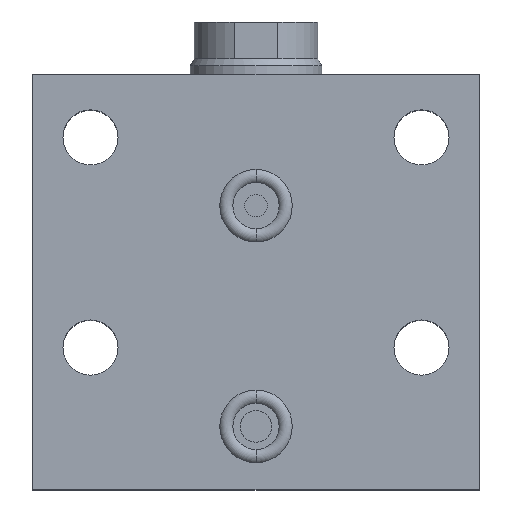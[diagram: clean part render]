
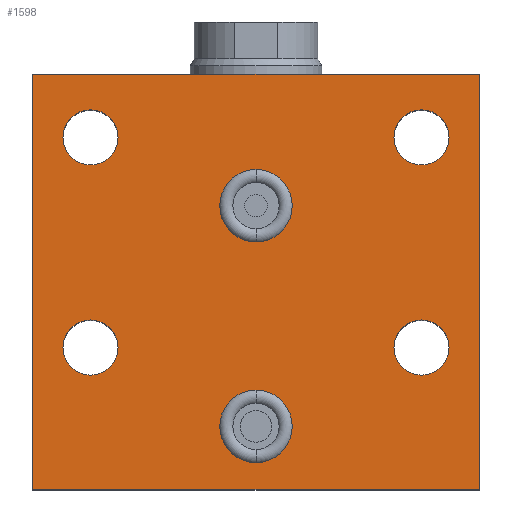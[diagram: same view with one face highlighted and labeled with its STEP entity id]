
A CAD part, top view. The second image highlights one B-rep face of the part: STEP entity #1598.
In plain terms, the highlighted planar face has unit normal (0, 0, 1).
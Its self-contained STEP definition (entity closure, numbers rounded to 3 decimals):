
#46 = CARTESIAN_POINT ( 'NONE',  ( 0., 12., 31.5 ) ) ;
#99 = ORIENTED_EDGE ( 'NONE', *, *, #1200, .F. ) ;
#105 = ORIENTED_EDGE ( 'NONE', *, *, #1294, .T. ) ;
#154 = AXIS2_PLACEMENT_3D ( 'NONE', #1694, #511, #1899 ) ;
#176 = DIRECTION ( 'NONE',  ( -1., 0., 0. ) ) ;
#179 = CIRCLE ( 'NONE', #1875, 6.9 ) ;
#199 = VERTEX_POINT ( 'NONE', #2390 ) ;
#204 = LINE ( 'NONE', #2157, #2244 ) ;
#224 = CARTESIAN_POINT ( 'NONE',  ( 31.5, 67., 31.5 ) ) ;
#239 = VECTOR ( 'NONE', #1726, 1000. ) ;
#242 = CARTESIAN_POINT ( 'NONE',  ( -26.25, 27., 31.5 ) ) ;
#268 = AXIS2_PLACEMENT_3D ( 'NONE', #46, #1379, #2313 ) ;
#286 = ORIENTED_EDGE ( 'NONE', *, *, #1928, .F. ) ;
#331 = CARTESIAN_POINT ( 'NONE',  ( 26.25, 67., 31.5 ) ) ;
#349 = CARTESIAN_POINT ( 'NONE',  ( -42.5, 0., 31.5 ) ) ;
#374 = EDGE_CURVE ( 'NONE', #1071, #2312, #428, .T. ) ;
#381 = DIRECTION ( 'NONE',  ( -1., 0., 0. ) ) ;
#392 = LINE ( 'NONE', #985, #1275 ) ;
#398 = DIRECTION ( 'NONE',  ( 0., 0., 1. ) ) ;
#401 = AXIS2_PLACEMENT_3D ( 'NONE', #1711, #1910, #381 ) ;
#404 = EDGE_LOOP ( 'NONE', ( #2141, #884, #99, #2016 ) ) ;
#417 = DIRECTION ( 'NONE',  ( 1., 0., 0. ) ) ;
#428 = CIRCLE ( 'NONE', #1418, 5.25 ) ;
#448 = AXIS2_PLACEMENT_3D ( 'NONE', #224, #1609, #417 ) ;
#450 = CIRCLE ( 'NONE', #2076, 5.25 ) ;
#465 = ORIENTED_EDGE ( 'NONE', *, *, #2058, .F. ) ;
#511 = DIRECTION ( 'NONE',  ( 0., 0., 1. ) ) ;
#545 = EDGE_CURVE ( 'NONE', #711, #1646, #2228, .T. ) ;
#551 = VERTEX_POINT ( 'NONE', #2102 ) ;
#569 = CARTESIAN_POINT ( 'NONE',  ( -36.75, 27., 31.5 ) ) ;
#574 = FACE_OUTER_BOUND ( 'NONE', #404, .T. ) ;
#658 = ORIENTED_EDGE ( 'NONE', *, *, #374, .F. ) ;
#662 = VERTEX_POINT ( 'NONE', #2315 ) ;
#664 = EDGE_CURVE ( 'NONE', #2312, #1071, #877, .T. ) ;
#674 = DIRECTION ( 'NONE',  ( 0., 0., 1. ) ) ;
#694 = CARTESIAN_POINT ( 'NONE',  ( 0., 5.1, 31.5 ) ) ;
#702 = DIRECTION ( 'NONE',  ( 0., 0., 1. ) ) ;
#705 = CIRCLE ( 'NONE', #1238, 5.25 ) ;
#707 = FACE_BOUND ( 'NONE', #794, .T. ) ;
#711 = VERTEX_POINT ( 'NONE', #1545 ) ;
#716 = CARTESIAN_POINT ( 'NONE',  ( 26.25, 27., 31.5 ) ) ;
#741 = CIRCLE ( 'NONE', #268, 6.9 ) ;
#742 = EDGE_CURVE ( 'NONE', #1262, #551, #2368, .T. ) ;
#761 = EDGE_LOOP ( 'NONE', ( #286, #1792 ) ) ;
#790 = VERTEX_POINT ( 'NONE', #1535 ) ;
#792 = CARTESIAN_POINT ( 'NONE',  ( 31.5, 27., 31.5 ) ) ;
#794 = EDGE_LOOP ( 'NONE', ( #2311, #1134 ) ) ;
#814 = EDGE_LOOP ( 'NONE', ( #658, #2466 ) ) ;
#822 = EDGE_LOOP ( 'NONE', ( #890, #105 ) ) ;
#877 = CIRCLE ( 'NONE', #1366, 5.25 ) ;
#884 = ORIENTED_EDGE ( 'NONE', *, *, #2292, .F. ) ;
#890 = ORIENTED_EDGE ( 'NONE', *, *, #2115, .T. ) ;
#917 = CARTESIAN_POINT ( 'NONE',  ( -42.5, 0., 31.5 ) ) ;
#938 = VECTOR ( 'NONE', #1679, 1000. ) ;
#965 = CARTESIAN_POINT ( 'NONE',  ( -31.5, 27., 31.5 ) ) ;
#969 = ORIENTED_EDGE ( 'NONE', *, *, #1745, .F. ) ;
#985 = CARTESIAN_POINT ( 'NONE',  ( -42.5, 54., 31.5 ) ) ;
#986 = EDGE_LOOP ( 'NONE', ( #1319, #465 ) ) ;
#995 = DIRECTION ( 'NONE',  ( 1., 0., 0. ) ) ;
#1013 = VERTEX_POINT ( 'NONE', #2028 ) ;
#1063 = DIRECTION ( 'NONE',  ( 0., 0., 1. ) ) ;
#1071 = VERTEX_POINT ( 'NONE', #242 ) ;
#1127 = CARTESIAN_POINT ( 'NONE',  ( 0., 12., 31.5 ) ) ;
#1128 = FACE_BOUND ( 'NONE', #814, .T. ) ;
#1134 = ORIENTED_EDGE ( 'NONE', *, *, #1300, .T. ) ;
#1168 = DIRECTION ( 'NONE',  ( 1., 0., 0. ) ) ;
#1172 = DIRECTION ( 'NONE',  ( 0., 0., -1. ) ) ;
#1200 = EDGE_CURVE ( 'NONE', #1203, #199, #1467, .T. ) ;
#1203 = VERTEX_POINT ( 'NONE', #2443 ) ;
#1224 = EDGE_LOOP ( 'NONE', ( #969, #1527 ) ) ;
#1238 = AXIS2_PLACEMENT_3D ( 'NONE', #1882, #702, #2085 ) ;
#1255 = FACE_BOUND ( 'NONE', #822, .T. ) ;
#1262 = VERTEX_POINT ( 'NONE', #2099 ) ;
#1275 = VECTOR ( 'NONE', #2150, 1000. ) ;
#1294 = EDGE_CURVE ( 'NONE', #2052, #1013, #741, .T. ) ;
#1300 = EDGE_CURVE ( 'NONE', #551, #1262, #1844, .T. ) ;
#1305 = CARTESIAN_POINT ( 'NONE',  ( -42.5, 79., 31.5 ) ) ;
#1319 = ORIENTED_EDGE ( 'NONE', *, *, #545, .F. ) ;
#1330 = DIRECTION ( 'NONE',  ( -1., 0., 0. ) ) ;
#1350 = VERTEX_POINT ( 'NONE', #1473 ) ;
#1366 = AXIS2_PLACEMENT_3D ( 'NONE', #965, #2323, #1168 ) ;
#1379 = DIRECTION ( 'NONE',  ( 0., 0., -1. ) ) ;
#1381 = DIRECTION ( 'NONE',  ( 0., 0., -1. ) ) ;
#1418 = AXIS2_PLACEMENT_3D ( 'NONE', #1855, #674, #2054 ) ;
#1432 = AXIS2_PLACEMENT_3D ( 'NONE', #1550, #1172, #2495 ) ;
#1467 = LINE ( 'NONE', #1305, #938 ) ;
#1473 = CARTESIAN_POINT ( 'NONE',  ( 36.75, 27., 31.5 ) ) ;
#1478 = VERTEX_POINT ( 'NONE', #716 ) ;
#1527 = ORIENTED_EDGE ( 'NONE', *, *, #1689, .F. ) ;
#1532 = VERTEX_POINT ( 'NONE', #331 ) ;
#1535 = CARTESIAN_POINT ( 'NONE',  ( 36.75, 67., 31.5 ) ) ;
#1545 = CARTESIAN_POINT ( 'NONE',  ( -26.25, 67., 31.5 ) ) ;
#1550 = CARTESIAN_POINT ( 'NONE',  ( -42.5, 54., 31.5 ) ) ;
#1558 = CARTESIAN_POINT ( 'NONE',  ( -36.75, 67., 31.5 ) ) ;
#1571 = EDGE_CURVE ( 'NONE', #2107, #662, #1752, .T. ) ;
#1590 = CARTESIAN_POINT ( 'NONE',  ( 31.5, 27., 31.5 ) ) ;
#1598 = ADVANCED_FACE ( 'NONE', ( #1255, #707, #2223, #2164, #1635, #1128, #574 ), #2487, .F. ) ;
#1602 = CIRCLE ( 'NONE', #2024, 5.25 ) ;
#1609 = DIRECTION ( 'NONE',  ( 0., 0., 1. ) ) ;
#1615 = AXIS2_PLACEMENT_3D ( 'NONE', #2500, #1381, #176 ) ;
#1635 = FACE_BOUND ( 'NONE', #1224, .T. ) ;
#1646 = VERTEX_POINT ( 'NONE', #1558 ) ;
#1679 = DIRECTION ( 'NONE',  ( 1., 0., 0. ) ) ;
#1689 = EDGE_CURVE ( 'NONE', #1478, #1350, #450, .T. ) ;
#1694 = CARTESIAN_POINT ( 'NONE',  ( -31.5, 67., 31.5 ) ) ;
#1711 = CARTESIAN_POINT ( 'NONE',  ( 0., 54., 31.5 ) ) ;
#1726 = DIRECTION ( 'NONE',  ( 1., 0., 0. ) ) ;
#1745 = EDGE_CURVE ( 'NONE', #1350, #1478, #1842, .T. ) ;
#1752 = LINE ( 'NONE', #349, #239 ) ;
#1758 = DIRECTION ( 'NONE',  ( 0., -1., 0. ) ) ;
#1776 = DIRECTION ( 'NONE',  ( 1., 0., 0. ) ) ;
#1792 = ORIENTED_EDGE ( 'NONE', *, *, #2404, .F. ) ;
#1842 = CIRCLE ( 'NONE', #2446, 5.25 ) ;
#1844 = CIRCLE ( 'NONE', #401, 6.9 ) ;
#1855 = CARTESIAN_POINT ( 'NONE',  ( -31.5, 27., 31.5 ) ) ;
#1875 = AXIS2_PLACEMENT_3D ( 'NONE', #1127, #2457, #1330 ) ;
#1882 = CARTESIAN_POINT ( 'NONE',  ( -31.5, 67., 31.5 ) ) ;
#1899 = DIRECTION ( 'NONE',  ( 1., 0., 0. ) ) ;
#1910 = DIRECTION ( 'NONE',  ( 0., 0., -1. ) ) ;
#1928 = EDGE_CURVE ( 'NONE', #790, #1532, #1602, .T. ) ;
#2016 = ORIENTED_EDGE ( 'NONE', *, *, #2286, .T. ) ;
#2024 = AXIS2_PLACEMENT_3D ( 'NONE', #2235, #1063, #2407 ) ;
#2028 = CARTESIAN_POINT ( 'NONE',  ( 0., 18.9, 31.5 ) ) ;
#2052 = VERTEX_POINT ( 'NONE', #694 ) ;
#2054 = DIRECTION ( 'NONE',  ( 1., 0., 0. ) ) ;
#2058 = EDGE_CURVE ( 'NONE', #1646, #711, #705, .T. ) ;
#2076 = AXIS2_PLACEMENT_3D ( 'NONE', #792, #2169, #995 ) ;
#2085 = DIRECTION ( 'NONE',  ( 1., 0., 0. ) ) ;
#2099 = CARTESIAN_POINT ( 'NONE',  ( 0., 60.9, 31.5 ) ) ;
#2102 = CARTESIAN_POINT ( 'NONE',  ( 0., 47.1, 31.5 ) ) ;
#2107 = VERTEX_POINT ( 'NONE', #917 ) ;
#2115 = EDGE_CURVE ( 'NONE', #1013, #2052, #179, .T. ) ;
#2141 = ORIENTED_EDGE ( 'NONE', *, *, #1571, .T. ) ;
#2150 = DIRECTION ( 'NONE',  ( 0., -1., 0. ) ) ;
#2157 = CARTESIAN_POINT ( 'NONE',  ( 42.5, 54., 31.5 ) ) ;
#2164 = FACE_BOUND ( 'NONE', #986, .T. ) ;
#2169 = DIRECTION ( 'NONE',  ( 0., 0., 1. ) ) ;
#2223 = FACE_BOUND ( 'NONE', #761, .T. ) ;
#2228 = CIRCLE ( 'NONE', #154, 5.25 ) ;
#2235 = CARTESIAN_POINT ( 'NONE',  ( 31.5, 67., 31.5 ) ) ;
#2244 = VECTOR ( 'NONE', #1758, 1000. ) ;
#2286 = EDGE_CURVE ( 'NONE', #1203, #2107, #392, .T. ) ;
#2292 = EDGE_CURVE ( 'NONE', #199, #662, #204, .T. ) ;
#2311 = ORIENTED_EDGE ( 'NONE', *, *, #742, .T. ) ;
#2312 = VERTEX_POINT ( 'NONE', #569 ) ;
#2313 = DIRECTION ( 'NONE',  ( -1., 0., 0. ) ) ;
#2315 = CARTESIAN_POINT ( 'NONE',  ( 42.5, 0., 31.5 ) ) ;
#2323 = DIRECTION ( 'NONE',  ( 0., 0., 1. ) ) ;
#2368 = CIRCLE ( 'NONE', #1615, 6.9 ) ;
#2390 = CARTESIAN_POINT ( 'NONE',  ( 42.5, 79., 31.5 ) ) ;
#2404 = EDGE_CURVE ( 'NONE', #1532, #790, #2486, .T. ) ;
#2407 = DIRECTION ( 'NONE',  ( 1., 0., 0. ) ) ;
#2443 = CARTESIAN_POINT ( 'NONE',  ( -42.5, 79., 31.5 ) ) ;
#2446 = AXIS2_PLACEMENT_3D ( 'NONE', #1590, #398, #1776 ) ;
#2457 = DIRECTION ( 'NONE',  ( 0., 0., -1. ) ) ;
#2466 = ORIENTED_EDGE ( 'NONE', *, *, #664, .F. ) ;
#2486 = CIRCLE ( 'NONE', #448, 5.25 ) ;
#2487 = PLANE ( 'NONE',  #1432 ) ;
#2495 = DIRECTION ( 'NONE',  ( -1., 0., 0. ) ) ;
#2500 = CARTESIAN_POINT ( 'NONE',  ( 0., 54., 31.5 ) ) ;
